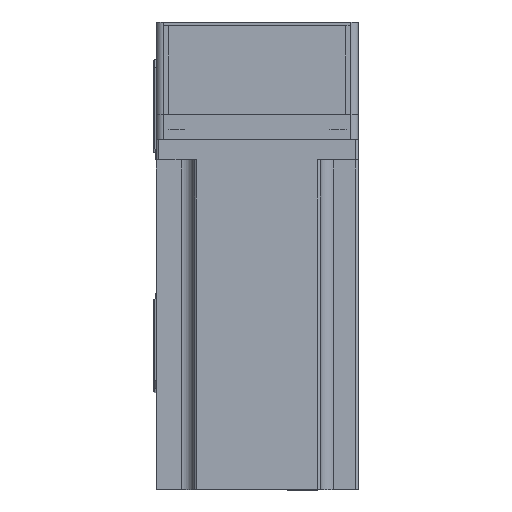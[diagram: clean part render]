
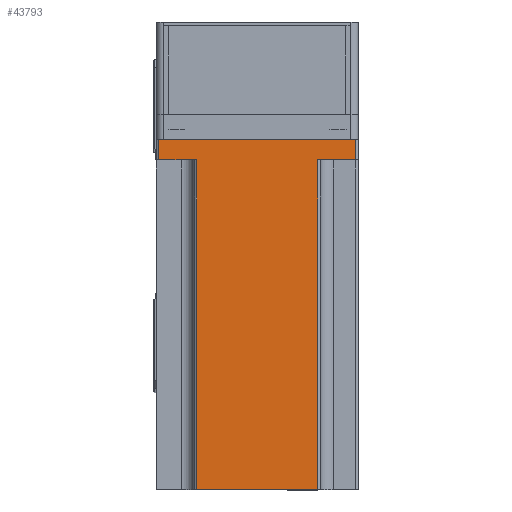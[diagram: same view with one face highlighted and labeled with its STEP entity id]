
A CAD part, top view. The second image highlights one B-rep face of the part: STEP entity #43793.
In plain terms, the highlighted planar face has unit normal (0, 0, 1) as drawn and (0, 1, 0) by its records, which use the part's own axes.
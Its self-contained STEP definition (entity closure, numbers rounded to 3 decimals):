
#1127 = CARTESIAN_POINT ( 'NONE',  ( -39., 40., 138.3 ) ) ;
#1480 = CARTESIAN_POINT ( 'NONE',  ( 40., 40., 138.3 ) ) ;
#1585 = CARTESIAN_POINT ( 'NONE',  ( 39., 40., 138.3 ) ) ;
#1723 = LINE ( 'NONE', #15094, #31169 ) ;
#1847 = EDGE_CURVE ( 'NONE', #15542, #10515, #17243, .T. ) ;
#3056 = EDGE_CURVE ( 'NONE', #26444, #19706, #46087, .T. ) ;
#3817 = DIRECTION ( 'NONE',  ( 0., -1., 0. ) ) ;
#3839 = CARTESIAN_POINT ( 'NONE',  ( 24., 40., 138.3 ) ) ;
#5045 = DIRECTION ( 'NONE',  ( 0., 0., 1. ) ) ;
#5426 = ORIENTED_EDGE ( 'NONE', *, *, #1847, .F. ) ;
#5996 = VERTEX_POINT ( 'NONE', #11822 ) ;
#7253 = LINE ( 'NONE', #1585, #45834 ) ;
#8389 = EDGE_LOOP ( 'NONE', ( #30578, #9881, #22797, #38417, #5426, #27092, #23083, #34212 ) ) ;
#9634 = CARTESIAN_POINT ( 'NONE',  ( -39., 40., 8. ) ) ;
#9881 = ORIENTED_EDGE ( 'NONE', *, *, #31437, .T. ) ;
#10046 = VERTEX_POINT ( 'NONE', #9634 ) ;
#10515 = VERTEX_POINT ( 'NONE', #37213 ) ;
#10608 = VERTEX_POINT ( 'NONE', #37710 ) ;
#10759 = DIRECTION ( 'NONE',  ( -1., 0., 0. ) ) ;
#11244 = EDGE_CURVE ( 'NONE', #10608, #10515, #19332, .T. ) ;
#11822 = CARTESIAN_POINT ( 'NONE',  ( -24., 40., 138.3 ) ) ;
#12180 = CARTESIAN_POINT ( 'NONE',  ( -39., 40., 0. ) ) ;
#14918 = VECTOR ( 'NONE', #16611, 1000. ) ;
#15023 = DIRECTION ( 'NONE',  ( -1., 0., 0. ) ) ;
#15094 = CARTESIAN_POINT ( 'NONE',  ( -24., 40., 138.3 ) ) ;
#15298 = VECTOR ( 'NONE', #15023, 1000. ) ;
#15542 = VERTEX_POINT ( 'NONE', #25135 ) ;
#16364 = LINE ( 'NONE', #1127, #25374 ) ;
#16611 = DIRECTION ( 'NONE',  ( -1., 0., 0. ) ) ;
#17243 = LINE ( 'NONE', #28715, #36520 ) ;
#19332 = LINE ( 'NONE', #3839, #47680 ) ;
#19706 = VERTEX_POINT ( 'NONE', #12180 ) ;
#21152 = CARTESIAN_POINT ( 'NONE',  ( 40., 40., 0. ) ) ;
#21639 = AXIS2_PLACEMENT_3D ( 'NONE', #26822, #3817, #30655 ) ;
#22777 = DIRECTION ( 'NONE',  ( 0., 0., 1. ) ) ;
#22797 = ORIENTED_EDGE ( 'NONE', *, *, #23179, .F. ) ;
#23083 = ORIENTED_EDGE ( 'NONE', *, *, #3056, .T. ) ;
#23179 = EDGE_CURVE ( 'NONE', #10608, #5996, #35430, .T. ) ;
#25135 = CARTESIAN_POINT ( 'NONE',  ( 39., 40., 8. ) ) ;
#25374 = VECTOR ( 'NONE', #5045, 1000. ) ;
#26444 = VERTEX_POINT ( 'NONE', #32230 ) ;
#26822 = CARTESIAN_POINT ( 'NONE',  ( 40., 40., 138.3 ) ) ;
#27092 = ORIENTED_EDGE ( 'NONE', *, *, #45831, .T. ) ;
#28715 = CARTESIAN_POINT ( 'NONE',  ( 25., 40., 8. ) ) ;
#29728 = CARTESIAN_POINT ( 'NONE',  ( -25., 40., 8. ) ) ;
#30494 = PLANE ( 'NONE',  #21639 ) ;
#30578 = ORIENTED_EDGE ( 'NONE', *, *, #43251, .T. ) ;
#30655 = DIRECTION ( 'NONE',  ( 1., 0., 0. ) ) ;
#30847 = FACE_OUTER_BOUND ( 'NONE', #8389, .T. ) ;
#31169 = VECTOR ( 'NONE', #22777, 1000. ) ;
#31437 = EDGE_CURVE ( 'NONE', #47177, #5996, #1723, .T. ) ;
#32230 = CARTESIAN_POINT ( 'NONE',  ( 39., 40., 0. ) ) ;
#32331 = DIRECTION ( 'NONE',  ( 0., 0., -1. ) ) ;
#33379 = LINE ( 'NONE', #29728, #49128 ) ;
#33438 = DIRECTION ( 'NONE',  ( 1., 0., 0. ) ) ;
#34212 = ORIENTED_EDGE ( 'NONE', *, *, #45190, .T. ) ;
#35369 = CARTESIAN_POINT ( 'NONE',  ( -24., 40., 8. ) ) ;
#35430 = LINE ( 'NONE', #1480, #14918 ) ;
#36520 = VECTOR ( 'NONE', #10759, 1000. ) ;
#37213 = CARTESIAN_POINT ( 'NONE',  ( 24., 40., 8. ) ) ;
#37710 = CARTESIAN_POINT ( 'NONE',  ( 24., 40., 138.3 ) ) ;
#38417 = ORIENTED_EDGE ( 'NONE', *, *, #11244, .T. ) ;
#43251 = EDGE_CURVE ( 'NONE', #10046, #47177, #33379, .T. ) ;
#43793 = ADVANCED_FACE ( 'NONE', ( #30847 ), #30494, .F. ) ;
#45190 = EDGE_CURVE ( 'NONE', #19706, #10046, #16364, .T. ) ;
#45831 = EDGE_CURVE ( 'NONE', #15542, #26444, #7253, .T. ) ;
#45834 = VECTOR ( 'NONE', #32331, 1000. ) ;
#46087 = LINE ( 'NONE', #21152, #15298 ) ;
#46259 = DIRECTION ( 'NONE',  ( 0., 0., -1. ) ) ;
#47177 = VERTEX_POINT ( 'NONE', #35369 ) ;
#47680 = VECTOR ( 'NONE', #46259, 1000. ) ;
#49128 = VECTOR ( 'NONE', #33438, 1000. ) ;
